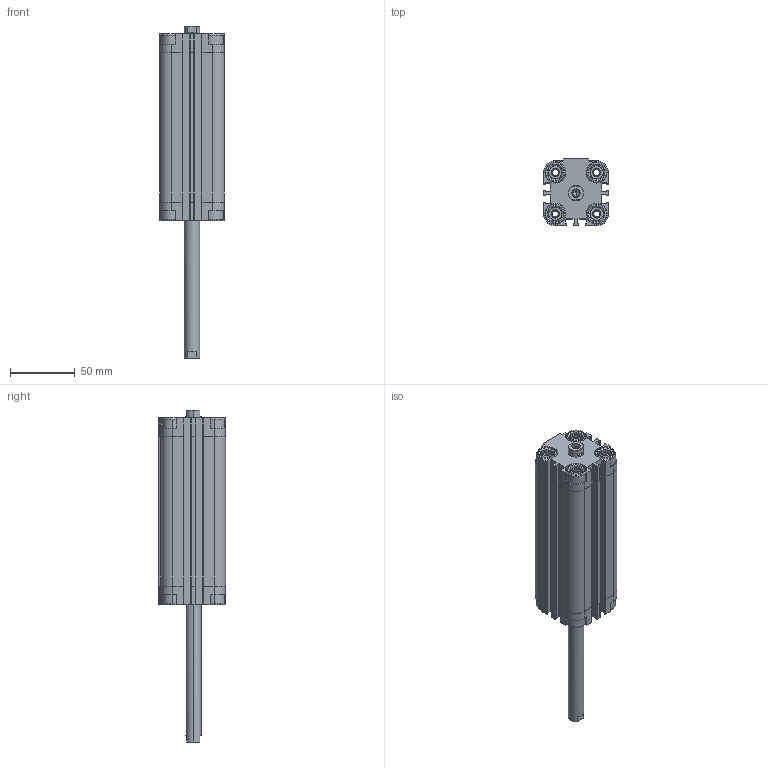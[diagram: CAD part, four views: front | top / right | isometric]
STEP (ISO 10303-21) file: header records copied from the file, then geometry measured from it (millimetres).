
FILE_DESCRIPTION (( 'STEP AP203' ), '1' );
FILE_NAME ('CDVU32-100F-P.STEP', '2020-07-24T18:13:22', ( '' ), ( '' ), 'SwSTEP 2.0', 'SolidWorks 2019', '' );
FILE_SCHEMA (( 'CONFIG_CONTROL_DESIGN' ));
Length unit declared in the file: millimetre
Products named in the file (1): CDVU32-100F-P
Bounding box: 50 x 52 x 256.5 mm (x, y, z)
Volume: 238555.5 mm3; surface area: 85795.7 mm2
Topology: 2 solids, 2 shells, 722 faces, 1928 edges, 1244 vertices
Faces by surface type: plane 422, cylinder 236, cone 64
Entity records: 22623 total; most frequent: CARTESIAN_POINT 4463, ORIENTED_EDGE 3840, DIRECTION 3710, EDGE_CURVE 1920, AXIS2_PLACEMENT_3D 1259, VERTEX_POINT 1244, LINE 1192, VECTOR 1192
